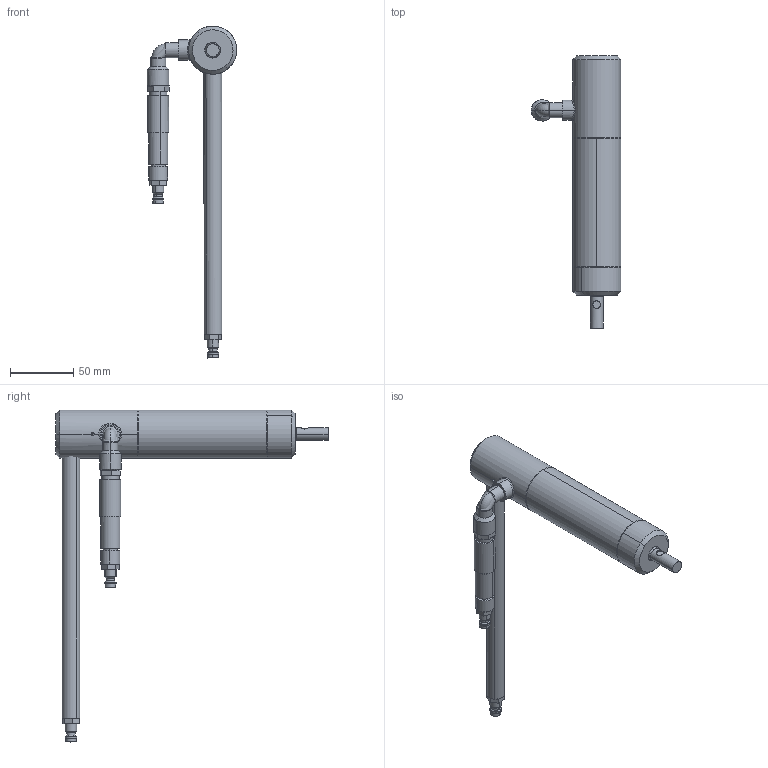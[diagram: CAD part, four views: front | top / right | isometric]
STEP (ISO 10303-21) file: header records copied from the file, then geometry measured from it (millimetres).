
FILE_DESCRIPTION (( 'STEP AP214' ), '1' );
FILE_NAME ('PLR28GA.STEP', '2019-03-11T15:06:26', ( '' ), ( '' ), 'SwSTEP 2.0', 'SolidWorks 2018', '' );
FILE_SCHEMA (( 'AUTOMOTIVE_DESIGN' ));
Length unit declared in the file: millimetre
Products named in the file (13): Halterohr GA; Rändelschraube GA; Schnellkupplung; Ventil; Rändelschraube; Winkel; Kopie von Distanzring PLR 11^PLR28GA; Kopie von Verschluss PLR 11^PLR28GA; Kopie von Deckel PLR 11^PLR28GA; Kopie von Stator PLR 11^PLR28GA; Kopie von Rotor PLR 11^PLR28GA; Kopie von Motorblock PLR 11^PLR28GA; PLR28GA
Assembly tree (13 placements, depth 3):
  PLR28GA
    Kopie von Motorblock PLR 11^PLR28GA
    Kopie von Rotor PLR 11^PLR28GA
    Kopie von Stator PLR 11^PLR28GA
    Kopie von Deckel PLR 11^PLR28GA
    Kopie von Verschluss PLR 11^PLR28GA
    Kopie von Distanzring PLR 11^PLR28GA
    Winkel
    Rändelschraube GA
      Rändelschraube
      Ventil
      Schnellkupplung
    Halterohr GA
    Schnellkupplung
Bounding box: 70.71 x 214.5 x 261.61 mm (x, y, z)
Volume: 240531 mm3; surface area: 89981 mm2
Topology: 12 solids, 12 shells, 264 faces, 548 edges, 346 vertices
Faces by surface type: cylinder 138, plane 88, cone 26, torus 10, bspline 2
Entity records: 7800 total; most frequent: CARTESIAN_POINT 1824, DIRECTION 1214, ORIENTED_EDGE 952, AXIS2_PLACEMENT_3D 516, EDGE_CURVE 476, VERTEX_POINT 304, EDGE_LOOP 284, CIRCLE 268
